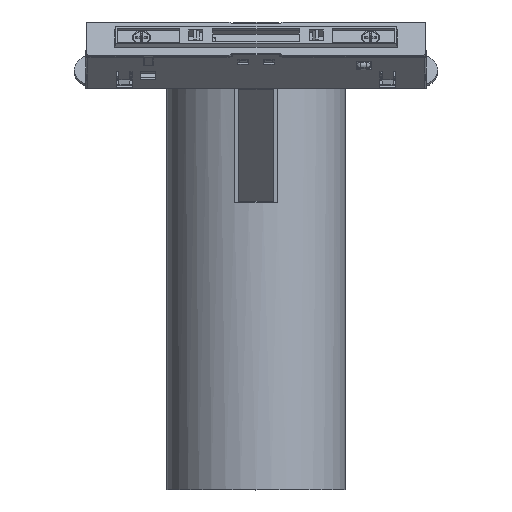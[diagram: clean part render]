
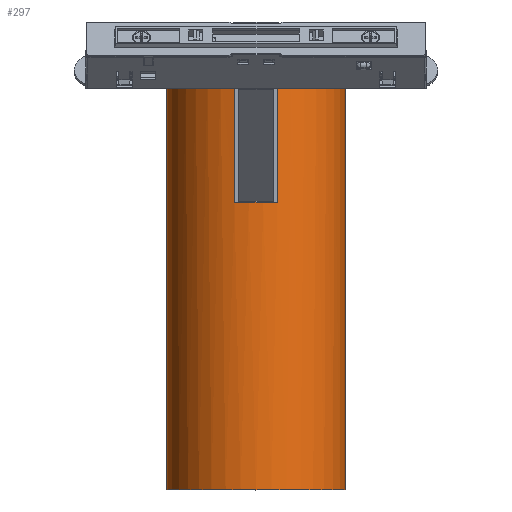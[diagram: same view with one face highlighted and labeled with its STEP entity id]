
A CAD part, top view. The second image highlights one B-rep face of the part: STEP entity #297.
In plain terms, the highlighted cylindrical face has radius 31 mm (diameter 62 mm), a partial arc.
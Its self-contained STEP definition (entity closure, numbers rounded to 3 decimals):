
#50=DIRECTION('',(0.,-1.,0.));
#51=VECTOR('',#50,145.);
#52=CARTESIAN_POINT('',(-31.,95.584,0.));
#53=LINE('',#52,#51);
#54=DIRECTION('',(0.,-1.,0.));
#55=VECTOR('',#54,45.);
#56=CARTESIAN_POINT('',(-7.5,95.584,30.079));
#57=LINE('',#56,#55);
#58=DIRECTION('',(0.,1.,0.));
#59=VECTOR('',#58,45.);
#60=CARTESIAN_POINT('',(7.5,50.584,30.079));
#61=LINE('',#60,#59);
#62=DIRECTION('',(0.,-1.,0.));
#63=VECTOR('',#62,145.);
#64=CARTESIAN_POINT('',(31.,95.584,0.));
#65=LINE('',#64,#63);
#88=CARTESIAN_POINT('',(0.,95.584,0.));
#89=DIRECTION('',(0.,-1.,0.));
#90=DIRECTION('',(-0.242,0.,0.97));
#91=AXIS2_PLACEMENT_3D('',#88,#89,#90);
#98=CARTESIAN_POINT('',(0.,95.584,0.));
#99=DIRECTION('',(0.,-1.,0.));
#100=DIRECTION('',(1.,0.,0.));
#101=AXIS2_PLACEMENT_3D('',#98,#99,#100);
#129=CARTESIAN_POINT('',(0.,50.584,0.));
#130=DIRECTION('',(0.,-1.,0.));
#131=DIRECTION('',(0.242,0.,0.97));
#132=AXIS2_PLACEMENT_3D('',#129,#130,#131);
#174=CARTESIAN_POINT('',(0.,-49.416,0.));
#175=DIRECTION('',(0.,1.,0.));
#176=DIRECTION('',(-1.,0.,0.));
#177=AXIS2_PLACEMENT_3D('',#174,#175,#176);
#212=CARTESIAN_POINT('',(31.,95.584,0.));
#213=CARTESIAN_POINT('',(31.,-49.416,0.));
#214=VERTEX_POINT('',#212);
#215=VERTEX_POINT('',#213);
#216=CARTESIAN_POINT('',(-31.,95.584,0.));
#217=VERTEX_POINT('',#216);
#218=CARTESIAN_POINT('',(-31.,-49.416,0.));
#219=VERTEX_POINT('',#218);
#220=CARTESIAN_POINT('',(-7.5,95.584,30.079));
#221=CARTESIAN_POINT('',(-7.5,50.584,30.079));
#222=VERTEX_POINT('',#220);
#223=VERTEX_POINT('',#221);
#224=CARTESIAN_POINT('',(7.5,50.584,30.079));
#225=VERTEX_POINT('',#224);
#226=CARTESIAN_POINT('',(7.5,95.584,30.079));
#227=VERTEX_POINT('',#226);
#276=CARTESIAN_POINT('',(0.,-56.666,0.));
#277=DIRECTION('',(0.,1.,0.));
#278=DIRECTION('',(1.,0.,0.));
#279=AXIS2_PLACEMENT_3D('',#276,#277,#278);
#280=CYLINDRICAL_SURFACE('',#279,31.);
#282=ORIENTED_EDGE('',*,*,#281,.T.);
#284=ORIENTED_EDGE('',*,*,#283,.F.);
#286=ORIENTED_EDGE('',*,*,#285,.T.);
#288=ORIENTED_EDGE('',*,*,#287,.F.);
#289=ORIENTED_EDGE('',*,*,#265,.T.);
#291=ORIENTED_EDGE('',*,*,#290,.F.);
#292=ORIENTED_EDGE('',*,*,#269,.F.);
#294=ORIENTED_EDGE('',*,*,#293,.F.);
#295=EDGE_LOOP('',(#282,#284,#286,#288,#289,#291,#292,#294));
#296=FACE_OUTER_BOUND('',#295,.F.);
#92=CIRCLE('',#91,31.);
#102=CIRCLE('',#101,31.);
#133=CIRCLE('',#132,31.);
#178=CIRCLE('',#177,31.);
#265=EDGE_CURVE('',#214,#215,#65,.T.);
#269=EDGE_CURVE('',#217,#219,#53,.T.);
#281=EDGE_CURVE('',#222,#223,#57,.T.);
#283=EDGE_CURVE('',#225,#223,#133,.T.);
#285=EDGE_CURVE('',#225,#227,#61,.T.);
#287=EDGE_CURVE('',#214,#227,#102,.T.);
#290=EDGE_CURVE('',#219,#215,#178,.T.);
#293=EDGE_CURVE('',#222,#217,#92,.T.);
#297=ADVANCED_FACE('',(#296),#280,.T.);
